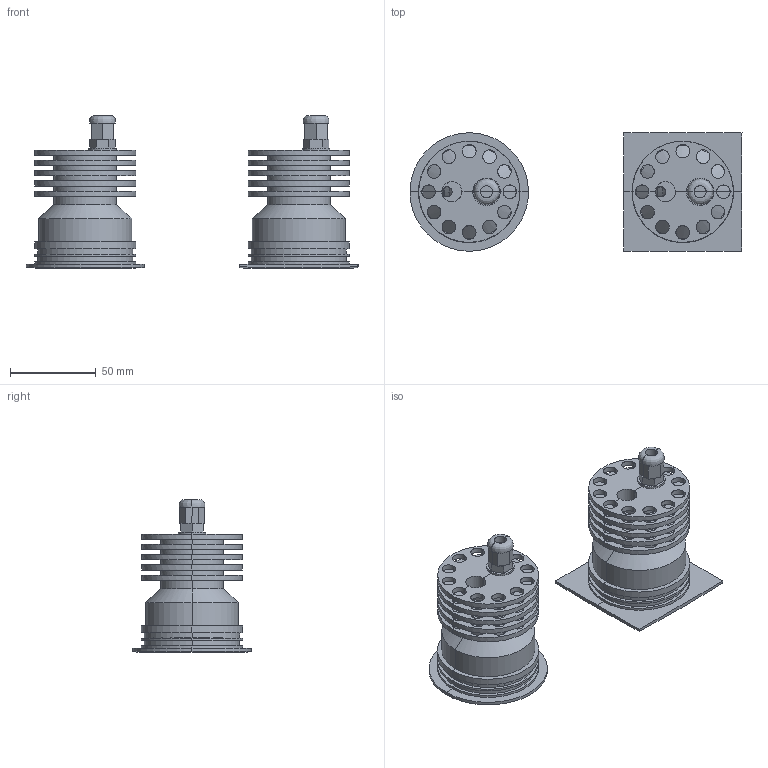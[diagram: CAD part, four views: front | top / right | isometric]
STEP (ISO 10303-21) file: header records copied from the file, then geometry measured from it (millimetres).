
FILE_DESCRIPTION(/* description */ (''),/* implementation_level */ '2;1');
FILE_NAME(/* name */ 'Mist 10-724',/* time_stamp */ '2025-06-18T18:09:16+02:00',/* author */ (''),/* organization */ (''),/* preprocessor_version */ 'ST-DEVELOPER v15',/* originating_system */ '',/* authorisation */ '');
FILE_SCHEMA (('CONFIG_CONTROL_DESIGN'));
Products named in the file (1): Document
Bounding box: 194 x 69.2 x 89.4 mm (x, y, z)
Volume: 226071.6 mm3; surface area: 118965.2 mm2
Topology: 12 solids, 12 shells, 1370 faces, 3470 edges, 1986 vertices
Faces by surface type: bspline 1370
Entity records: 120468 total; most frequent: CARTESIAN_POINT 77476, B_SPLINE_CURVE_WITH_KNOTS 8804, ORIENTED_EDGE 6760, PCURVE 6760, DEFINITIONAL_REPRESENTATION 6760, SURFACE_CURVE 3380, EDGE_CURVE 3380, VERTEX_POINT 1984
